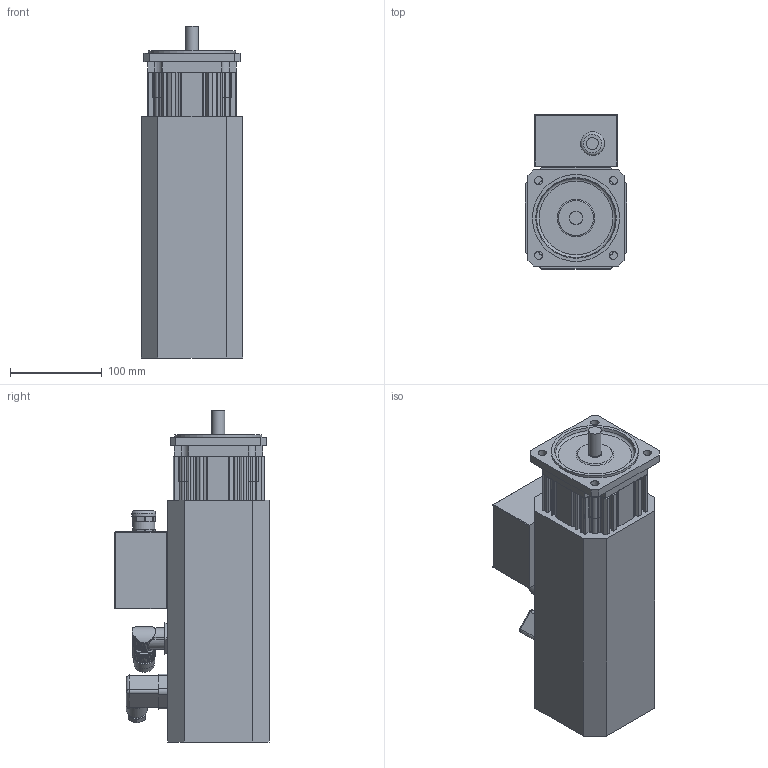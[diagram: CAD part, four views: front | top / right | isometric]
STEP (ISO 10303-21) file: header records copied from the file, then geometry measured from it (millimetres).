
FILE_DESCRIPTION(/* description */ (''),/* implementation_level */ '2;1');
FILE_NAME(/* name */ 'KSA449_FS_Ix',/* time_stamp */ '2009-02-26T14:22:15+01:00',/* author */ (''),/* organization */ (''),/* preprocessor_version */ 'ST-DEVELOPER v8',/* originating_system */ 'UNIGRAPHICS SOLUTIONS - UNIGRAPHICS 18.0',/* authorisation */ '');
FILE_SCHEMA (('AUTOMOTIVE_DESIGN { 1 2 10303 214 0 1 1 1 }'));
Length unit declared in the file: millimetre
Products named in the file (8): 0280391350_0; 014146_0; 014145_0; Winkelflanschdose_0; Lagersch4AS_0; 089105X_0; Klemmenkasten_0; KSA444_FS_Ix_0
Assembly tree (7 placements, depth 3):
  KSA444_FS_Ix_0
    089105X_0
    Lagersch4AS_0
    Winkelflanschdose_0
    Klemmenkasten_0
      0280391350_0
    014145_0
    014146_0
Bounding box: 110.7 x 168.2 x 362.5 mm (x, y, z)
Volume: 4078440.3 mm3; surface area: 344801.4 mm2
Topology: 8 solids, 8 shells, 705 faces, 1944 edges, 1275 vertices
Faces by surface type: cylinder 402, plane 279, cone 8, sphere 8, torus 4, bspline 4
Full cylindrical faces by diameter (mm): 3.2 x1, 3.5 x4, 4.5 x1, 5 x2, 6.5 x4, 9 x4, 13 x2, 14 x1, 15 x1, 16 x1, 17 x1, 18 x1, 20 x2, 21 x1, 21.5 x1, 22.5 x1, 23 x2, 24 x1, 26 x1, 89.6 x2, 91 x1, 95 x1
Entity records: 22938 total; most frequent: CARTESIAN_POINT 4603, DIRECTION 3854, ORIENTED_EDGE 3760, EDGE_CURVE 1880, AXIS2_PLACEMENT_3D 1421, VERTEX_POINT 1263, LINE 1012, VECTOR 1012
